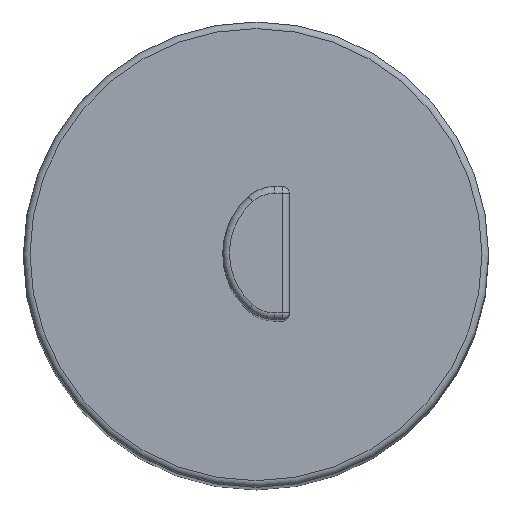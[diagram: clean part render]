
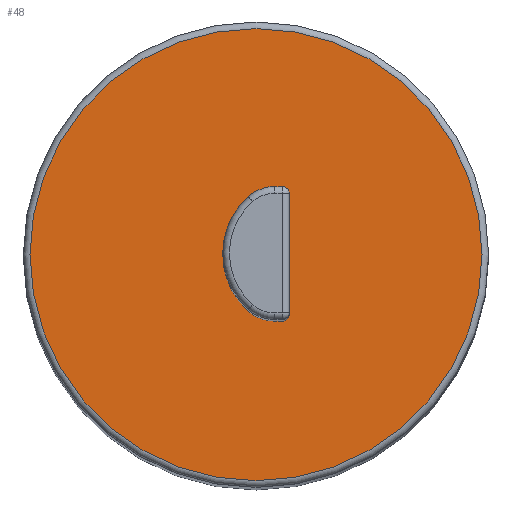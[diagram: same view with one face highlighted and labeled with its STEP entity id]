
A CAD part, top view. The second image highlights one B-rep face of the part: STEP entity #48.
In plain terms, the highlighted planar face has unit normal (0, 0, 1).
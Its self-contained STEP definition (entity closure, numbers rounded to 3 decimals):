
#48=ADVANCED_FACE('',(#300,#302),#304,.T.);
#300=FACE_BOUND('',#301,.T.);
#301=EDGE_LOOP('',(#516));
#302=FACE_BOUND('',#303,.T.);
#303=EDGE_LOOP('',(#517,#518,#519,#520,#521,#522,#523,#524));
#304=PLANE('',#305);
#305=AXIS2_PLACEMENT_3D('',#306,#307,#308);
#306=CARTESIAN_POINT('',(0.,0.,230.));
#307=DIRECTION('',(0.,0.,1.));
#308=DIRECTION('',(-1.,0.,0.));
#516=ORIENTED_EDGE('',*,*,#612,.F.);
#517=ORIENTED_EDGE('',*,*,#613,.F.);
#518=ORIENTED_EDGE('',*,*,#614,.F.);
#519=ORIENTED_EDGE('',*,*,#615,.F.);
#520=ORIENTED_EDGE('',*,*,#616,.F.);
#521=ORIENTED_EDGE('',*,*,#617,.F.);
#522=ORIENTED_EDGE('',*,*,#618,.F.);
#523=ORIENTED_EDGE('',*,*,#619,.F.);
#524=ORIENTED_EDGE('',*,*,#620,.F.);
#612=EDGE_CURVE('',#660,#660,#661,.T.);
#613=EDGE_CURVE('',#662,#663,#664,.F.);
#614=EDGE_CURVE('',#665,#662,#666,.T.);
#615=EDGE_CURVE('',#667,#665,#668,.F.);
#616=EDGE_CURVE('',#669,#667,#670,.T.);
#617=EDGE_CURVE('',#671,#669,#672,.F.);
#618=EDGE_CURVE('',#673,#671,#674,.T.);
#619=EDGE_CURVE('',#675,#673,#676,.F.);
#620=EDGE_CURVE('',#663,#675,#677,.T.);
#660=VERTEX_POINT('',#740);
#661=CIRCLE('',#741,34.);
#662=VERTEX_POINT('',#745);
#663=VERTEX_POINT('',#746);
#664=CIRCLE('',#747,6.);
#665=VERTEX_POINT('',#751);
#666=CIRCLE('',#752,11.333);
#667=VERTEX_POINT('',#756);
#668=CIRCLE('',#757,6.);
#669=VERTEX_POINT('',#761);
#670=LINE('',#762,#763);
#671=VERTEX_POINT('',#765);
#672=CIRCLE('',#766,1.);
#673=VERTEX_POINT('',#770);
#674=LINE('',#771,#772);
#675=VERTEX_POINT('',#774);
#676=CIRCLE('',#775,1.);
#677=LINE('',#779,#780);
#740=CARTESIAN_POINT('',(-34.,0.,230.));
#741=AXIS2_PLACEMENT_3D('',#742,#743,#744);
#742=CARTESIAN_POINT('',(0.,0.,230.));
#743=DIRECTION('',(0.,0.,-1.));
#744=DIRECTION('',(-1.,0.,0.));
#745=CARTESIAN_POINT('',(-1.163,-8.5,230.));
#746=CARTESIAN_POINT('',(2.806,-10.,230.));
#747=AXIS2_PLACEMENT_3D('',#748,#749,#750);
#748=CARTESIAN_POINT('',(2.806,-4.,230.));
#749=DIRECTION('',(0.,0.,-1.));
#750=DIRECTION('',(0.,-1.,0.));
#751=CARTESIAN_POINT('',(-1.163,8.5,230.));
#752=AXIS2_PLACEMENT_3D('',#753,#754,#755);
#753=CARTESIAN_POINT('',(6.333,0.,230.));
#754=DIRECTION('',(0.,0.,1.));
#755=DIRECTION('',(-0.661,0.75,0.));
#756=CARTESIAN_POINT('',(2.806,10.,230.));
#757=AXIS2_PLACEMENT_3D('',#758,#759,#760);
#758=CARTESIAN_POINT('',(2.806,4.,230.));
#759=DIRECTION('',(0.,0.,-1.));
#760=DIRECTION('',(-0.661,0.75,0.));
#761=CARTESIAN_POINT('',(4.,10.,230.));
#762=CARTESIAN_POINT('',(4.,10.,230.));
#763=VECTOR('',#764,1.);
#764=DIRECTION('',(-1.,0.,0.));
#765=CARTESIAN_POINT('',(5.,9.,230.));
#766=AXIS2_PLACEMENT_3D('',#767,#768,#769);
#767=CARTESIAN_POINT('',(4.,9.,230.));
#768=DIRECTION('',(0.,0.,-1.));
#769=DIRECTION('',(0.,1.,0.));
#770=CARTESIAN_POINT('',(5.,-9.,230.));
#771=CARTESIAN_POINT('',(5.,-9.,230.));
#772=VECTOR('',#773,1.);
#773=DIRECTION('',(0.,1.,0.));
#774=CARTESIAN_POINT('',(4.,-10.,230.));
#775=AXIS2_PLACEMENT_3D('',#776,#777,#778);
#776=CARTESIAN_POINT('',(4.,-9.,230.));
#777=DIRECTION('',(0.,0.,-1.));
#778=DIRECTION('',(1.,0.,0.));
#779=CARTESIAN_POINT('',(2.806,-10.,230.));
#780=VECTOR('',#781,1.);
#781=DIRECTION('',(1.,0.,0.));
